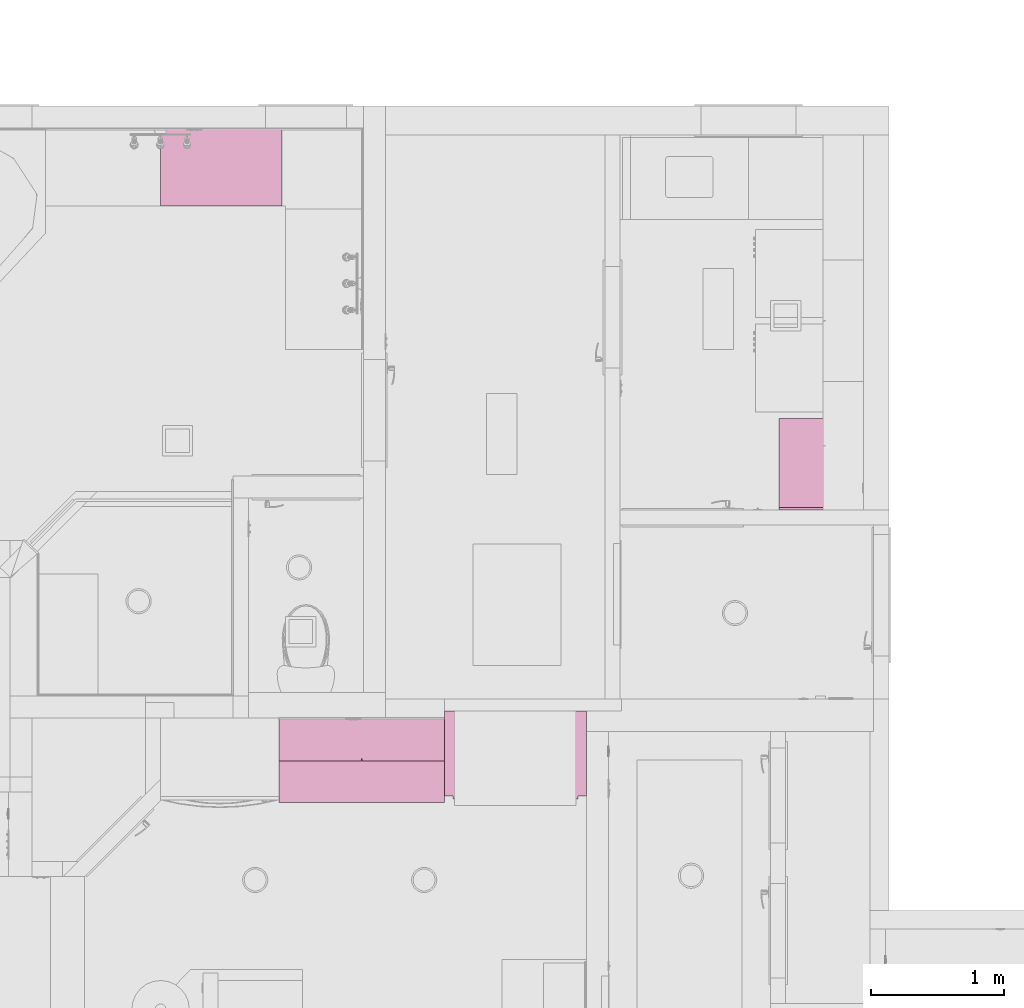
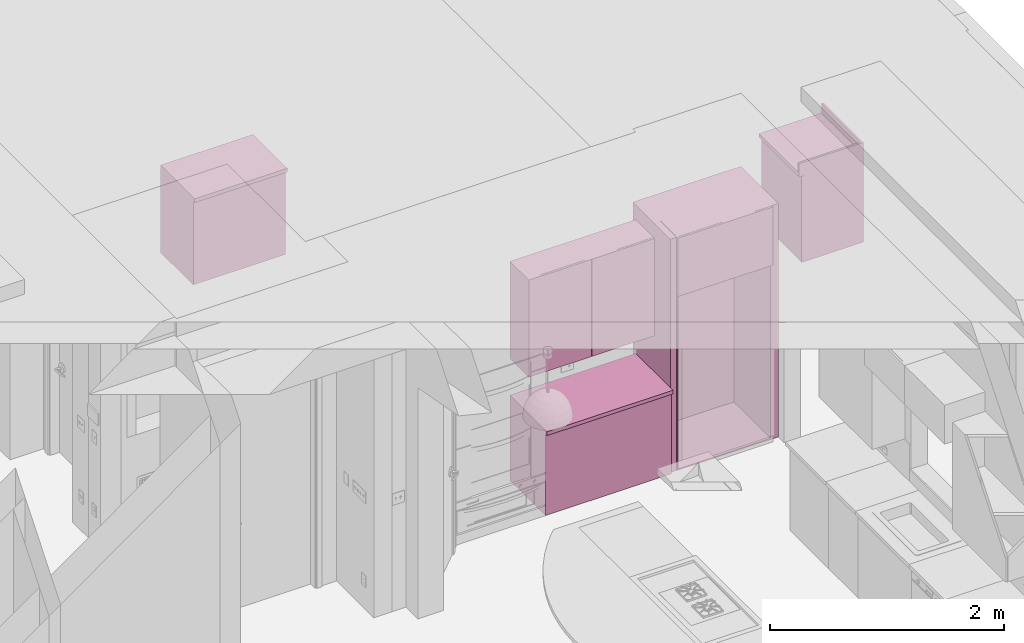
# One storey, part 51 of 103: 5 furnishings.
"""IFC2X3 building model written with IfcOpenShell, lengths in inches."""

import ifcopenshell
import ifcopenshell.guid

model = None  # the IFC model being written
_history = None  # IfcOwnerHistory: only IFC2X3 demands one
_inside = {}  # id of a spatial element -> (the spatial element, [elements in it])
_under = {}  # id of a project, library or spatial element -> (it, [spatial elements below it])
_declared = {}  # id of a project -> (the project, [libraries it declares])
_typed = {}  # id of a type object -> (the type object, [elements of that type])
_made_of = {}  # id of a material, layer set ... -> (it, [elements and type objects made of it])


def new_model(schema):
    """Start an empty IFC model of exactly this schema.

    Asked for "IFC4X3", IfcOpenShell would pick the latest addendum, in which some entities
    have other attributes; the version numbers below select the first issue.
    IFC2X3 requires an IfcOwnerHistory on every rooted entity: one is made here for all.
    """
    global model, _history
    if schema == "IFC4X3":
        model = ifcopenshell.file(schema_version=(4, 3, 0, 0))
    else:
        model = ifcopenshell.file(schema=schema)
    _inside.clear()
    _under.clear()
    _declared.clear()
    _typed.clear()
    _made_of.clear()
    _history = None
    if model.schema == "IFC2X3":
        org = make("IfcOrganization", Name="unknown")
        user = make(
            "IfcPersonAndOrganization",
            ThePerson=make("IfcPerson", FamilyName="unknown"),
            TheOrganization=org,
        )
        app = make(
            "IfcApplication",
            ApplicationDeveloper=org,
            Version="unknown",
            ApplicationFullName="unknown",
            ApplicationIdentifier="unknown",
        )
        _history = make(
            "IfcOwnerHistory",
            OwningUser=user,
            OwningApplication=app,
            ChangeAction="ADDED",
            CreationDate=0,
        )
    return model


def make(cls, **values):
    """One entity of the class cls with the attributes given. An attribute that is None is left unset."""
    return model.create_entity(
        cls, **{name: value for name, value in values.items() if value is not None}
    )


def entity(cls, *values):
    """Any entity or typed value of the class cls, its attributes in the order of the schema. None: left unset."""
    e = model.create_entity(cls)
    for i, value in enumerate(values):
        if value is not None:
            e[i] = value
    return e


def rooted(cls, **values):
    """An entity with a GlobalId (a new one), such as an element, a storey or a relation."""
    return make(cls, GlobalId=ifcopenshell.guid.new(), OwnerHistory=_history, **values)


def si_unit(unit_type, name, prefix=None):
    """IfcSIUnit, for example si_unit("LENGTHUNIT", "METRE", prefix="MILLI")."""
    return make("IfcSIUnit", UnitType=unit_type, Prefix=prefix, Name=name)


def converted_unit(unit_type, name, factor, base, dimensions=None, offset=None):
    """IfcConversionBasedUnit, such as the inch: factor (a typed value) times the base unit."""
    return make(
        "IfcConversionBasedUnit"
        if offset is None
        else "IfcConversionBasedUnitWithOffset",
        ConversionOffset=offset,
        Dimensions=None
        if dimensions is None
        else entity("IfcDimensionalExponents", *dimensions),
        UnitType=unit_type,
        Name=name,
        ConversionFactor=make(
            "IfcMeasureWithUnit", ValueComponent=factor, UnitComponent=base
        ),
    )


def derived_unit(unit_type, elements):
    """IfcDerivedUnit: a product of units, each with its exponent."""
    return make(
        "IfcDerivedUnit",
        Elements=[
            make("IfcDerivedUnitElement", Unit=unit, Exponent=power)
            for unit, power in elements
        ],
        UnitType=unit_type,
    )


def money_unit(currency):
    """IfcMonetaryUnit."""
    return make("IfcMonetaryUnit", Currency=currency)


def assignment(units):
    """IfcUnitAssignment: the units of a project."""
    return None if units is None else make("IfcUnitAssignment", Units=units)


def point(xyz):
    """IfcCartesianPoint."""
    return None if xyz is None else make("IfcCartesianPoint", Coordinates=xyz)


def direction(xyz):
    """IfcDirection."""
    return None if xyz is None else make("IfcDirection", DirectionRatios=xyz)


def frame(location, z_axis=None, x_axis=None):
    """IfcAxis2Placement3D, a coordinate frame: its origin and axes. An axis left out is left unset."""
    return make(
        "IfcAxis2Placement3D",
        Location=point(location),
        Axis=direction(z_axis),
        RefDirection=direction(x_axis),
    )


def origin_with_axes():
    """The frame at (0, 0, 0) with the z axis (0, 0, 1) and the x axis (1, 0, 0) written out."""
    return frame((0.0, 0.0, 0.0), z_axis=(0.0, 0.0, 1.0), x_axis=(1.0, 0.0, 0.0))


def place(relative_to, where):
    """IfcLocalPlacement: puts the frame where relative to a parent placement (None: the world)."""
    return make(
        "IfcLocalPlacement", PlacementRelTo=relative_to, RelativePlacement=where
    )


def context(
    kind, dimensions, precision=None, world=None, true_north=None, identifier=None
):
    """IfcGeometricRepresentationContext, for example the 3D "Model" context."""
    return make(
        "IfcGeometricRepresentationContext",
        ContextIdentifier=identifier,
        ContextType=kind,
        CoordinateSpaceDimension=dimensions,
        Precision=precision,
        WorldCoordinateSystem=world,
        TrueNorth=true_north,
    )


def subcontext(parent, identifier, kind, view, scale=None):
    """IfcGeometricRepresentationSubContext, for example "Body" below "Model"."""
    return make(
        "IfcGeometricRepresentationSubContext",
        ContextIdentifier=identifier,
        ContextType=kind,
        ParentContext=parent,
        TargetScale=scale,
        TargetView=view,
    )


def project(units=None, contexts=None):
    """IfcProject with its units and contexts."""
    return rooted(
        "IfcProject",
        Name="project",
        RepresentationContexts=contexts,
        UnitsInContext=assignment(units),
    )


def spatial(cls, under=None, at=None, **own):
    """A site, building, storey or space (cls), placed at a placement, below another one or the project."""
    s = rooted(cls, ObjectPlacement=at, **own)
    if under is not None:
        _under.setdefault(under.id(), (under, []))[1].append(s)
    return s


def faces_of(points, faces, orient=None, outer=None):
    """IfcFace entities. A face is a list of loops; a loop is a list of indices into points, from 0.

    orient and outer hold one flag for each loop. By default every Orientation is true, the
    first loop of a face is its IfcFaceOuterBound and the others are IfcFaceBound.
    """
    made = []
    for i, loops in enumerate(faces):
        bounds = []
        for j, loop in enumerate(loops):
            is_outer = j == 0 if outer is None else outer[i][j]
            bounds.append(
                make(
                    "IfcFaceOuterBound" if is_outer else "IfcFaceBound",
                    Bound=make("IfcPolyLoop", Polygon=[points[k] for k in loop]),
                    Orientation=True if orient is None else orient[i][j],
                )
            )
        made.append(make("IfcFace", Bounds=bounds))
    return made


def faceted_brep(points, faces, orient=None, outer=None, voids=None):
    """IfcFacetedBrep: a solid bounded by flat faces; with voids (closed shells), ...WithVoids."""
    shared = [point(p) for p in points]
    hull = make("IfcClosedShell", CfsFaces=faces_of(shared, faces, orient, outer))
    if voids is None:
        return make("IfcFacetedBrep", Outer=hull)
    return make(
        "IfcFacetedBrepWithVoids",
        Outer=hull,
        Voids=[
            make(cls, CfsFaces=faces_of(shared, fs, o, b)) for cls, fs, o, b in voids
        ],
    )


def shape(context_of_items, identifier, shape_type, items):
    """IfcShapeRepresentation: the items that make up one representation, for example the "Body"."""
    return make(
        "IfcShapeRepresentation",
        ContextOfItems=context_of_items,
        RepresentationIdentifier=identifier,
        RepresentationType=shape_type,
        Items=items,
    )


def made_of(thing, what):
    """Note that an element or type object is made of a material, layer set ...; save() writes the relation."""
    if what is not None:
        _made_of.setdefault(what.id(), (what, []))[1].append(thing)
    return thing


def type_object(cls, material=None, **own):
    """A type object (cls), such as IfcWallType, which elements share."""
    return made_of(rooted(cls, **own), material)


def element(
    cls,
    number,
    at=None,
    inside=None,
    cuts=None,
    type_object=None,
    material=None,
    context=None,
    identifier="Body",
    shape_type=None,
    held_by="IfcProductDefinitionShape",
    body=None,
    shapes=None,
    **own,
):
    """One element of the class cls, such as IfcWall. Its Tag is "e" and its number.

    at: its placement. inside: the storey or other place that contains it. cuts: it is an
    opening in that element (IfcRelVoidsElement). A single representation is given by context,
    identifier, shape_type and body (its items); several are given by shapes. held_by: the class
    of the entity that holds the representations. save() writes the other relations.
    """
    e = rooted(cls, Tag="e%d" % number, ObjectPlacement=at, **own)
    if body is not None:
        shapes = [shape(context, identifier, shape_type, body)]
    if shapes is not None:
        e.Representation = make(held_by, Representations=shapes)
    if inside is not None:
        _inside.setdefault(inside.id(), (inside, []))[1].append(e)
    if cuts is not None:
        rooted(
            "IfcRelVoidsElement", RelatingBuildingElement=cuts, RelatedOpeningElement=e
        )
    if type_object is not None:
        _typed.setdefault(type_object.id(), (type_object, []))[1].append(e)
    return made_of(e, material)


def aggregate(whole, parts):
    """IfcRelAggregates: a whole, such as a stair, and the parts it consists of."""
    return rooted("IfcRelAggregates", RelatingObject=whole, RelatedObjects=parts)


def save(model, path):
    """Write the relations noted so far, then the file.

    IfcRelAggregates (storeys below a building ...), IfcRelContainedInSpatialStructure (elements
    in a storey), IfcRelDefinesByType, IfcRelAssociatesMaterial and IfcRelDeclares: one each for
    every whole, place, type object, material and project.
    """
    for whole, parts in _under.values():
        aggregate(whole, parts)
    for where, things in _inside.values():
        rooted(
            "IfcRelContainedInSpatialStructure",
            RelatedElements=things,
            RelatingStructure=where,
        )
    for kind, things in _typed.values():
        rooted("IfcRelDefinesByType", RelatedObjects=things, RelatingType=kind)
    for what, things in _made_of.values():
        rooted("IfcRelAssociatesMaterial", RelatedObjects=things, RelatingMaterial=what)
    for by, libraries in _declared.values():
        rooted("IfcRelDeclares", RelatingContext=by, RelatedDefinitions=libraries)
    model.write(path)


model = new_model("IFC2X3")

# Units and contexts
model_context = context("Model", 3, precision=0.00039370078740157, world=origin_with_axes(), true_north=direction((0.0, 1.0)))
plan_context = context("Plan", 3, precision=0.00039370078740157, world=origin_with_axes(), true_north=direction((0.0, 1.0)))
body_context = subcontext(model_context, "Body", "Model", "MODEL_VIEW")
ifc_project = project(units=[converted_unit("LENGTHUNIT", "INCH", entity("IfcPositiveLengthMeasure", 0.0254), si_unit("LENGTHUNIT", "METRE"), dimensions=[1, 0, 0, 0, 0, 0, 0]), converted_unit("AREAUNIT", "SQUARE_FOOT", entity("IfcPositiveLengthMeasure", 0.09290304), si_unit("AREAUNIT", "SQUARE_METRE"), dimensions=[2, 0, 0, 0, 0, 0, 0]), si_unit("PLANEANGLEUNIT", "RADIAN"), si_unit("SOLIDANGLEUNIT", "STERADIAN"), money_unit("USD"), converted_unit("TIMEUNIT", "Year", entity("IfcTimeMeasure", 31557600.0), si_unit("TIMEUNIT", "SECOND"), dimensions=[0, 0, 1, 0, 0, 0, 0]), si_unit("MASSUNIT", "GRAM", prefix="KILO"), si_unit("THERMODYNAMICTEMPERATUREUNIT", "DEGREE_CELSIUS"), si_unit("LUMINOUSINTENSITYUNIT", "LUMEN"), si_unit("ENERGYUNIT", "JOULE", prefix="MEGA"), derived_unit("SPECIFICHEATCAPACITYUNIT", [(si_unit("ENERGYUNIT", "JOULE"), 1), (si_unit("MASSUNIT", "GRAM", prefix="KILO"), -1), (si_unit("THERMODYNAMICTEMPERATUREUNIT", "KELVIN"), -1)])], contexts=[model_context, plan_context])

# Site, building, storey
site_placement = place(None, origin_with_axes())
site = spatial("IfcSite", under=ifc_project, at=site_placement, Name="Site", CompositionType="ELEMENT")
building_placement = place(site_placement, origin_with_axes())
building = spatial("IfcBuilding", under=site, at=building_placement, Name="Building", CompositionType="ELEMENT")
storey_placement = place(building_placement, frame((0.0, 0.0, 127.9999999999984), z_axis=(0.0, 0.0, 1.0), x_axis=(1.0, 0.0, 0.0)))
storey = spatial("IfcBuildingStorey", under=building, at=storey_placement, Name="Second Floor", CompositionType="ELEMENT", Elevation=128.0)

# Furnishings
furniture_type_1 = type_object("IfcFurnitureType", Name="Base Cabinet Block", AssemblyPlace="NOTDEFINED")
furnishing_1_placement = place(storey_placement, frame((63.99944462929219, 395.5014383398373, 0.0), z_axis=(0.0, 0.0, 1.0), x_axis=(0.9999999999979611, 2.01938114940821e-06, 0.0)))
element("IfcFurnishingElement", 1, at=furnishing_1_placement, inside=storey, type_object=furniture_type_1, Name="OBJ-16", context=body_context, shape_type="Brep", body=[
    faceted_brep([(0.0, -24.99999999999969, 33.49999999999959), (48.9999999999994, -24.99999999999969, 33.49999999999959), (48.9999999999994, -24.99999999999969, 34.99999999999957), (0.0, -24.99999999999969, 34.99999999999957), (0.0, 0.0, 33.49999999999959), (48.9999999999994, 0.0, 33.49999999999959), (48.9999999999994, 0.0, 34.99999999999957), (0.0, 0.0, 34.99999999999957)], [[[0, 1, 2, 3]], [[0, 4, 5, 1]], [[1, 5, 6, 2]], [[3, 2, 6, 7]], [[4, 0, 3, 7]], [[5, 4, 7, 6]]]),
    faceted_brep([(0.039370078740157, -23.24999999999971, 0.039370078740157), (24.46062992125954, -23.24999999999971, 0.039370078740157), (24.46062992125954, -23.9999999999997, 0.03937007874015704), (0.039370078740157, -23.9999999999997, 0.03937007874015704), (0.039370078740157, -23.24999999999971, 33.46062992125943), (24.46062992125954, -23.24999999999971, 33.46062992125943), (24.46062992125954, -23.9999999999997, 33.46062992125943), (0.039370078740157, -23.9999999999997, 33.46062992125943)], [[[0, 1, 2, 3]], [[0, 4, 5, 1]], [[1, 5, 6, 2]], [[3, 2, 6, 7]], [[4, 0, 3, 7]], [[5, 4, 7, 6]]]),
    faceted_brep([(48.96062992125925, -23.24999999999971, 0.03937007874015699), (48.96062992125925, -23.9999999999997, 0.03937007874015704), (24.53937007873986, -23.9999999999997, 0.03937007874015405), (24.53937007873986, -23.24999999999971, 0.039370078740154), (48.96062992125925, -23.24999999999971, 33.46062992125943), (48.96062992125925, -23.9999999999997, 33.46062992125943), (24.53937007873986, -23.9999999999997, 33.46062992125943), (24.53937007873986, -23.24999999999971, 33.46062992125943)], [[[0, 1, 2, 3]], [[4, 5, 1, 0]], [[1, 5, 6, 2]], [[3, 2, 6, 7]], [[0, 3, 7, 4]], [[7, 6, 5, 4]]]),
    faceted_brep([(0.7499999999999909, -23.24999999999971, 0.0), (48.2499999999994, -23.24999999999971, 0.0), (48.2499999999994, -23.24999999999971, 0.7499999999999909), (0.7499999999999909, -23.24999999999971, 0.7499999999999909), (0.7499999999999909, 0.0, 0.0), (48.2499999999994, 0.0, 0.0), (48.2499999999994, 0.0, 0.7499999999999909), (0.7499999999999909, 0.0, 0.7499999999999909)], [[[0, 1, 2, 3]], [[0, 4, 5, 1]], [[1, 5, 6, 2]], [[3, 2, 6, 7]], [[4, 0, 3, 7]], [[5, 4, 7, 6]]]),
    faceted_brep([(0.7499999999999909, -23.24999999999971, 32.74999999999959), (0.7499999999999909, -20.88779527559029, 32.74999999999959), (48.2499999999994, -20.88779527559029, 32.74999999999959), (48.2499999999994, -23.24999999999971, 32.74999999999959), (0.7499999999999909, -23.24999999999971, 33.49999999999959), (0.7499999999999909, -20.88779527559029, 33.49999999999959), (48.2499999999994, -20.88779527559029, 33.49999999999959), (48.2499999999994, -23.24999999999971, 33.49999999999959)], [[[0, 1, 2, 3]], [[0, 4, 5, 1]], [[1, 5, 6, 2]], [[3, 2, 6, 7]], [[4, 0, 3, 7]], [[5, 4, 7, 6]]]),
    faceted_brep([(48.2499999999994, 0.0, 32.74999999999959), (48.2499999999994, -2.36220472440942, 32.74999999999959), (0.7499999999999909, -2.36220472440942, 32.74999999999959), (0.7499999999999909, 0.0, 32.74999999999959), (48.2499999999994, 0.0, 33.49999999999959), (48.2499999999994, -2.36220472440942, 33.49999999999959), (0.7499999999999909, -2.36220472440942, 33.49999999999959), (0.7499999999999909, 0.0, 33.49999999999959)], [[[0, 1, 2, 3]], [[0, 4, 5, 1]], [[1, 5, 6, 2]], [[3, 2, 6, 7]], [[4, 0, 3, 7]], [[5, 4, 7, 6]]]),
    faceted_brep([(0.0, 0.0, 0.0), (0.0, -23.24999999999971, 0.0), (0.0, -23.24999999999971, 33.49999999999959), (0.0, 0.0, 33.49999999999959), (0.7499999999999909, 0.0, 0.0), (0.7499999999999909, -23.24999999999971, 0.0), (0.7499999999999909, -23.24999999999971, 33.49999999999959), (0.7499999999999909, 0.0, 33.49999999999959)], [[[0, 1, 2, 3]], [[0, 4, 5, 1]], [[1, 5, 6, 2]], [[3, 2, 6, 7]], [[4, 0, 3, 7]], [[5, 4, 7, 6]]]),
    faceted_brep([(48.9999999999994, -23.24999999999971, 0.0), (48.9999999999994, 0.0, 0.0), (48.9999999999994, 0.0, 33.49999999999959), (48.9999999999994, -23.24999999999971, 33.49999999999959), (48.2499999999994, -23.24999999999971, 0.0), (48.2499999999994, 0.0, 0.0), (48.2499999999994, 0.0, 33.49999999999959), (48.2499999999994, -23.24999999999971, 33.49999999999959)], [[[0, 1, 2, 3]], [[0, 4, 5, 1]], [[1, 5, 6, 2]], [[3, 2, 6, 7]], [[4, 0, 3, 7]], [[5, 4, 7, 6]]]),
    faceted_brep([(48.2499999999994, -0.3749999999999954, 0.7499999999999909), (0.7499999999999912, -0.3749999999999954, 0.7499999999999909), (0.7499999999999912, -0.3749999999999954, 32.74999999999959), (48.2499999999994, -0.3749999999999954, 32.74999999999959), (48.2499999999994, -0.7499999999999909, 0.7499999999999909), (0.7499999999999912, -0.7499999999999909, 0.7499999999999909), (0.7499999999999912, -0.7499999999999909, 32.74999999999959), (48.2499999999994, -0.7499999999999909, 32.74999999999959)], [[[0, 1, 2, 3]], [[0, 4, 5, 1]], [[1, 5, 6, 2]], [[3, 2, 6, 7]], [[4, 0, 3, 7]], [[5, 4, 7, 6]]]),
])
furnishing_2_placement = place(storey_placement, frame((29.00049595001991, 569.9997645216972, 0.0), z_axis=(0.0, 0.0, 1.0), x_axis=(0.9999999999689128, 7.885082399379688e-06, 0.0)))
element("IfcFurnishingElement", 2, at=furnishing_2_placement, inside=storey, type_object=furniture_type_1, Name="FU - 026", context=body_context, shape_type="Brep", body=[
    faceted_brep([(0.0, -22.99272103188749, 34.49999999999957), (35.99999999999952, -22.99272103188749, 34.49999999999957), (35.99999999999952, -22.99272103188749, 35.99999999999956), (0.0, -22.99272103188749, 35.99999999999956), (0.0, 0.0, 34.49999999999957), (35.99999999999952, 0.0, 34.49999999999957), (35.99999999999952, 0.0, 35.99999999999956), (0.0, 0.0, 35.99999999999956)], [[[0, 1, 2, 3]], [[0, 4, 5, 1]], [[1, 5, 6, 2]], [[3, 2, 6, 7]], [[4, 0, 3, 7]], [[5, 4, 7, 6]]]),
    faceted_brep([(0.039370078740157, -21.24272103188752, 0.039370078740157), (17.9606299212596, -21.24272103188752, 0.039370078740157), (17.9606299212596, -21.99272103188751, 0.03937007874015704), (0.039370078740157, -21.99272103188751, 0.03937007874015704), (0.039370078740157, -21.24272103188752, 34.46062992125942), (17.9606299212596, -21.24272103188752, 34.46062992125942), (17.9606299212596, -21.99272103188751, 34.46062992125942), (0.039370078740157, -21.99272103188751, 34.46062992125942)], [[[0, 1, 2, 3]], [[0, 4, 5, 1]], [[1, 5, 6, 2]], [[3, 2, 6, 7]], [[4, 0, 3, 7]], [[5, 4, 7, 6]]]),
    faceted_brep([(35.96062992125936, -21.24272103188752, 0.03937007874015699), (35.96062992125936, -21.99272103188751, 0.03937007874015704), (18.03937007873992, -21.99272103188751, 0.03937007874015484), (18.03937007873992, -21.24272103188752, 0.03937007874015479), (35.96062992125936, -21.24272103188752, 34.46062992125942), (35.96062992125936, -21.99272103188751, 34.46062992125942), (18.03937007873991, -21.99272103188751, 34.46062992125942), (18.03937007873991, -21.24272103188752, 34.46062992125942)], [[[0, 1, 2, 3]], [[4, 5, 1, 0]], [[1, 5, 6, 2]], [[3, 2, 6, 7]], [[0, 3, 7, 4]], [[7, 6, 5, 4]]]),
    faceted_brep([(0.7499999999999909, -21.24272103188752, 0.0), (35.24999999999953, -21.24272103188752, 0.0), (35.24999999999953, -21.24272103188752, 0.7499999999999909), (0.7499999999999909, -21.24272103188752, 0.7499999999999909), (0.7499999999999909, 0.0, 0.0), (35.24999999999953, 0.0, 0.0), (35.24999999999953, 0.0, 0.7499999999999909), (0.7499999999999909, 0.0, 0.7499999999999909)], [[[0, 1, 2, 3]], [[0, 4, 5, 1]], [[1, 5, 6, 2]], [[3, 2, 6, 7]], [[4, 0, 3, 7]], [[5, 4, 7, 6]]]),
    faceted_brep([(0.7499999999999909, -21.24272103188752, 33.74999999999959), (0.7499999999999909, -18.8805163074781, 33.74999999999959), (35.24999999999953, -18.8805163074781, 33.74999999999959), (35.24999999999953, -21.24272103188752, 33.74999999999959), (0.7499999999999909, -21.24272103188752, 34.49999999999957), (0.7499999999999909, -18.8805163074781, 34.49999999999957), (35.24999999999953, -18.8805163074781, 34.49999999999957), (35.24999999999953, -21.24272103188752, 34.49999999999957)], [[[0, 1, 2, 3]], [[0, 4, 5, 1]], [[1, 5, 6, 2]], [[3, 2, 6, 7]], [[4, 0, 3, 7]], [[5, 4, 7, 6]]]),
    faceted_brep([(35.24999999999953, 0.0, 33.74999999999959), (35.24999999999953, -2.36220472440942, 33.74999999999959), (0.7499999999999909, -2.36220472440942, 33.74999999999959), (0.7499999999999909, 0.0, 33.74999999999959), (35.24999999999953, 0.0, 34.49999999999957), (35.24999999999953, -2.36220472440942, 34.49999999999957), (0.7499999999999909, -2.36220472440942, 34.49999999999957), (0.7499999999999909, 0.0, 34.49999999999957)], [[[0, 1, 2, 3]], [[0, 4, 5, 1]], [[1, 5, 6, 2]], [[3, 2, 6, 7]], [[4, 0, 3, 7]], [[5, 4, 7, 6]]]),
    faceted_brep([(0.0, 0.0, 0.0), (0.0, -21.24272103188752, 0.0), (0.0, -21.24272103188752, 34.49999999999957), (0.0, 0.0, 34.49999999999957), (0.7499999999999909, 0.0, 0.0), (0.7499999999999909, -21.24272103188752, 0.0), (0.7499999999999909, -21.24272103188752, 34.49999999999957), (0.7499999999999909, 0.0, 34.49999999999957)], [[[0, 1, 2, 3]], [[0, 4, 5, 1]], [[1, 5, 6, 2]], [[3, 2, 6, 7]], [[4, 0, 3, 7]], [[5, 4, 7, 6]]]),
    faceted_brep([(35.99999999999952, -21.24272103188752, 0.0), (35.99999999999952, 0.0, 0.0), (35.99999999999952, 0.0, 34.49999999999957), (35.99999999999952, -21.24272103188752, 34.49999999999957), (35.24999999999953, -21.24272103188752, 0.0), (35.24999999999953, 0.0, 0.0), (35.24999999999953, 0.0, 34.49999999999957), (35.24999999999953, -21.24272103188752, 34.49999999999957)], [[[0, 1, 2, 3]], [[0, 4, 5, 1]], [[1, 5, 6, 2]], [[3, 2, 6, 7]], [[4, 0, 3, 7]], [[5, 4, 7, 6]]]),
    faceted_brep([(35.24999999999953, -0.3749999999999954, 0.7499999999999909), (0.7499999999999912, -0.3749999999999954, 0.7499999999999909), (0.7499999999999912, -0.3749999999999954, 33.74999999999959), (35.24999999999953, -0.3749999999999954, 33.74999999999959), (35.24999999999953, -0.7499999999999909, 0.7499999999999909), (0.7499999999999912, -0.7499999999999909, 0.7499999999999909), (0.7499999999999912, -0.7499999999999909, 33.74999999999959), (35.24999999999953, -0.7499999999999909, 33.74999999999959)], [[[0, 1, 2, 3]], [[0, 4, 5, 1]], [[1, 5, 6, 2]], [[3, 2, 6, 7]], [[4, 0, 3, 7]], [[5, 4, 7, 6]]]),
])
furnishing_3_placement = place(storey_placement, frame((236.9999999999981, 483.9999999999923, 0.0), z_axis=(0.0, 0.0, 1.0), x_axis=(0.0, -1.0, 0.0)))
element("IfcFurnishingElement", 3, at=furnishing_3_placement, inside=storey, type_object=furniture_type_1, Name="FU - 007", context=body_context, shape_type="Brep", body=[
    faceted_brep([(0.0, -24.99999999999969, 35.49999999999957), (26.99999999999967, -24.99999999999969, 35.49999999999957), (26.99999999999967, -24.99999999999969, 36.99999999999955), (0.0, -24.99999999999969, 36.99999999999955), (0.0, 0.0, 35.49999999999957), (26.99999999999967, 0.0, 35.49999999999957), (26.99999999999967, 0.0, 36.99999999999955), (0.0, 0.0, 36.99999999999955)], [[[0, 1, 2, 3]], [[0, 4, 5, 1]], [[1, 5, 6, 2]], [[3, 2, 6, 7]], [[4, 0, 3, 7]], [[5, 4, 7, 6]]]),
    faceted_brep([(26.99999999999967, -24.99999999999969, 36.99999999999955), (26.24999999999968, -24.99999999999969, 36.99999999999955), (26.24999999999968, -0.7499999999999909, 36.99999999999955), (26.99999999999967, 0.0, 36.99999999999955), (26.99999999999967, -24.99999999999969, 40.9999999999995), (26.24999999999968, -24.99999999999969, 40.9999999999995), (26.24999999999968, -0.7499999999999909, 40.9999999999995), (26.99999999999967, 0.0, 40.9999999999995)], [[[0, 1, 2, 3]], [[0, 4, 5, 1]], [[1, 5, 6, 2]], [[3, 2, 6, 7]], [[4, 0, 3, 7]], [[5, 4, 7, 6]]]),
    faceted_brep([(26.99999999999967, 0.0, 36.99999999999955), (26.24999999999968, -0.7499999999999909, 36.99999999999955), (0.0, -0.7499999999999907, 36.99999999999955), (0.0, 0.0, 36.99999999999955), (26.99999999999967, 0.0, 40.9999999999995), (26.24999999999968, -0.7499999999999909, 40.9999999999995), (0.0, -0.7499999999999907, 40.9999999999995), (0.0, 0.0, 40.9999999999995)], [[[0, 1, 2, 3]], [[0, 4, 5, 1]], [[1, 5, 6, 2]], [[3, 2, 6, 7]], [[4, 0, 3, 7]], [[5, 4, 7, 6]]]),
    faceted_brep([(0.039370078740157, -23.24999999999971, 0.039370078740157), (13.46062992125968, -23.24999999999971, 0.039370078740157), (13.46062992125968, -23.9999999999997, 0.03937007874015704), (0.039370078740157, -23.9999999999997, 0.03937007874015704), (0.039370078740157, -23.24999999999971, 35.4606299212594), (13.46062992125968, -23.24999999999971, 35.4606299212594), (13.46062992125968, -23.9999999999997, 35.4606299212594), (0.039370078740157, -23.9999999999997, 35.4606299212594)], [[[0, 1, 2, 3]], [[0, 4, 5, 1]], [[1, 5, 6, 2]], [[3, 2, 6, 7]], [[4, 0, 3, 7]], [[5, 4, 7, 6]]]),
    faceted_brep([(26.96062992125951, -23.24999999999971, 0.03937007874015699), (26.96062992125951, -23.9999999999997, 0.03937007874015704), (13.53937007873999, -23.9999999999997, 0.03937007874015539), (13.53937007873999, -23.24999999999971, 0.03937007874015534), (26.96062992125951, -23.24999999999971, 35.4606299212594), (26.96062992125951, -23.9999999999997, 35.4606299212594), (13.53937007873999, -23.9999999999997, 35.4606299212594), (13.53937007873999, -23.24999999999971, 35.4606299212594)], [[[0, 1, 2, 3]], [[4, 5, 1, 0]], [[1, 5, 6, 2]], [[3, 2, 6, 7]], [[0, 3, 7, 4]], [[7, 6, 5, 4]]]),
    faceted_brep([(0.7499999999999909, -23.24999999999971, 0.0), (26.24999999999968, -23.24999999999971, 0.0), (26.24999999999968, -23.24999999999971, 0.7499999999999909), (0.7499999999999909, -23.24999999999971, 0.7499999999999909), (0.7499999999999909, 0.0, 0.0), (26.24999999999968, 0.0, 0.0), (26.24999999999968, 0.0, 0.7499999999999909), (0.7499999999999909, 0.0, 0.7499999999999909)], [[[0, 1, 2, 3]], [[0, 4, 5, 1]], [[1, 5, 6, 2]], [[3, 2, 6, 7]], [[4, 0, 3, 7]], [[5, 4, 7, 6]]]),
    faceted_brep([(0.7499999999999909, -23.24999999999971, 34.74999999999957), (0.7499999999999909, -20.88779527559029, 34.74999999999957), (26.24999999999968, -20.88779527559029, 34.74999999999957), (26.24999999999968, -23.24999999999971, 34.74999999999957), (0.7499999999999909, -23.24999999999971, 35.49999999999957), (0.7499999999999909, -20.88779527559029, 35.49999999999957), (26.24999999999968, -20.88779527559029, 35.49999999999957), (26.24999999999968, -23.24999999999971, 35.49999999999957)], [[[0, 1, 2, 3]], [[0, 4, 5, 1]], [[1, 5, 6, 2]], [[3, 2, 6, 7]], [[4, 0, 3, 7]], [[5, 4, 7, 6]]]),
    faceted_brep([(26.24999999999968, 0.0, 34.74999999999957), (26.24999999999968, -2.36220472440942, 34.74999999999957), (0.7499999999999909, -2.36220472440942, 34.74999999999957), (0.7499999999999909, 0.0, 34.74999999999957), (26.24999999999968, 0.0, 35.49999999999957), (26.24999999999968, -2.36220472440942, 35.49999999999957), (0.7499999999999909, -2.36220472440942, 35.49999999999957), (0.7499999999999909, 0.0, 35.49999999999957)], [[[0, 1, 2, 3]], [[0, 4, 5, 1]], [[1, 5, 6, 2]], [[3, 2, 6, 7]], [[4, 0, 3, 7]], [[5, 4, 7, 6]]]),
    faceted_brep([(0.0, 0.0, 0.0), (0.0, -23.24999999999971, 0.0), (0.0, -23.24999999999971, 35.49999999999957), (0.0, 0.0, 35.49999999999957), (0.7499999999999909, 0.0, 0.0), (0.7499999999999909, -23.24999999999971, 0.0), (0.7499999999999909, -23.24999999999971, 35.49999999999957), (0.7499999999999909, 0.0, 35.49999999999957)], [[[0, 1, 2, 3]], [[0, 4, 5, 1]], [[1, 5, 6, 2]], [[3, 2, 6, 7]], [[4, 0, 3, 7]], [[5, 4, 7, 6]]]),
    faceted_brep([(26.99999999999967, -23.24999999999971, 0.0), (26.99999999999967, 0.0, 0.0), (26.99999999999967, 0.0, 35.49999999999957), (26.99999999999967, -23.24999999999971, 35.49999999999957), (26.24999999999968, -23.24999999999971, 0.0), (26.24999999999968, 0.0, 0.0), (26.24999999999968, 0.0, 35.49999999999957), (26.24999999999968, -23.24999999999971, 35.49999999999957)], [[[0, 1, 2, 3]], [[0, 4, 5, 1]], [[1, 5, 6, 2]], [[3, 2, 6, 7]], [[4, 0, 3, 7]], [[5, 4, 7, 6]]]),
    faceted_brep([(26.24999999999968, -0.3749999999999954, 0.7499999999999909), (0.7499999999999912, -0.3749999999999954, 0.7499999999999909), (0.7499999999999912, -0.3749999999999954, 34.74999999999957), (26.24999999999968, -0.3749999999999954, 34.74999999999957), (26.24999999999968, -0.7499999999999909, 0.7499999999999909), (0.7499999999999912, -0.7499999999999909, 0.7499999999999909), (0.7499999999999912, -0.7499999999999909, 34.74999999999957), (26.24999999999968, -0.7499999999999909, 34.74999999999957)], [[[0, 1, 2, 3]], [[0, 4, 5, 1]], [[1, 5, 6, 2]], [[3, 2, 6, 7]], [[4, 0, 3, 7]], [[5, 4, 7, 6]]]),
])
furniture_type_2 = type_object("IfcFurnitureType", Name="Standing Cabinet Block", AssemblyPlace="NOTDEFINED")
furnishing_4_placement = place(storey_placement, frame((112.9994689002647, 397.5015372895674, 0.0), z_axis=(0.0, 0.0, 1.0), x_axis=(0.9999999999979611, 2.01938114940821e-06, 0.0)))
element("IfcFurnishingElement", 4, at=furnishing_4_placement, inside=storey, type_object=furniture_type_2, Name="OBJ-17", context=body_context, shape_type="Brep", body=[
    faceted_brep([(2.999999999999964, -25.24999999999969, 71.74999999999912), (38.99999999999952, -25.24999999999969, 71.74999999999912), (38.99999999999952, -25.24999999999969, 72.2499999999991), (2.999999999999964, -25.24999999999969, 72.2499999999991), (2.999999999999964, -0.4999999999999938, 71.74999999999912), (38.99999999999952, -0.4999999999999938, 71.74999999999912), (38.99999999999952, -0.4999999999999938, 72.2499999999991), (2.999999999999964, -0.4999999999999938, 72.2499999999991)], [[[0, 1, 2, 3]], [[0, 4, 5, 1]], [[1, 5, 6, 2]], [[3, 2, 6, 7]], [[4, 0, 3, 7]], [[5, 4, 7, 6]]]),
    faceted_brep([(2.539370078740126, -25.24999999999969, 72.03937007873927), (20.96062992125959, -25.24999999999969, 72.03937007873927), (20.96062992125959, -25.99999999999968, 72.03937007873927), (2.539370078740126, -25.99999999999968, 72.03937007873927), (2.539370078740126, -25.24999999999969, 95.96062992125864), (20.96062992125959, -25.24999999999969, 95.96062992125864), (20.96062992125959, -25.99999999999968, 95.96062992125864), (2.539370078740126, -25.99999999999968, 95.96062992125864)], [[[0, 1, 2, 3]], [[0, 4, 5, 1]], [[1, 5, 6, 2]], [[3, 2, 6, 7]], [[4, 0, 3, 7]], [[5, 4, 7, 6]]]),
    faceted_brep([(39.46062992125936, -25.24999999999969, 72.03937007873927), (39.46062992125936, -25.99999999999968, 72.03937007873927), (21.0393700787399, -25.99999999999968, 72.03937007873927), (21.0393700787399, -25.24999999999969, 72.03937007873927), (39.46062992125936, -25.24999999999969, 95.96062992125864), (39.46062992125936, -25.99999999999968, 95.96062992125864), (21.0393700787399, -25.99999999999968, 95.96062992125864), (21.0393700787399, -25.24999999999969, 95.96062992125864)], [[[0, 1, 2, 3]], [[4, 5, 1, 0]], [[1, 5, 6, 2]], [[3, 2, 6, 7]], [[0, 3, 7, 4]], [[7, 6, 5, 4]]]),
    faceted_brep([(2.499999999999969, -0.039370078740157, 0.039370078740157), (2.499999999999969, -25.21062992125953, 0.039370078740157), (0.0, -25.21062992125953, 0.03937007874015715), (0.0, -0.039370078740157, 0.03937007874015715), (2.499999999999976, -0.039370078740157, 95.96062992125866), (2.499999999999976, -25.21062992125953, 95.96062992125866), (0.0, -25.21062992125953, 95.96062992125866), (0.0, -0.039370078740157, 95.96062992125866)], [[[0, 1, 2, 3]], [[0, 4, 5, 1]], [[1, 5, 6, 2]], [[3, 2, 6, 7]], [[4, 0, 3, 7]], [[5, 4, 7, 6]]]),
    faceted_brep([(39.49999999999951, -25.21062992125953, 0.039370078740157), (39.49999999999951, -0.03937007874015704, 0.039370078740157), (41.99999999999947, -0.03937007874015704, 0.03937007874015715), (41.99999999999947, -25.21062992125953, 0.03937007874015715), (39.4999999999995, -25.21062992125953, 95.96062992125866), (39.4999999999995, -0.03937007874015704, 95.96062992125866), (41.99999999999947, -0.03937007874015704, 95.96062992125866), (41.99999999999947, -25.21062992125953, 95.96062992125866)], [[[0, 1, 2, 3]], [[0, 4, 5, 1]], [[1, 5, 6, 2]], [[3, 2, 6, 7]], [[4, 0, 3, 7]], [[5, 4, 7, 6]]]),
    faceted_brep([(2.999999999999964, -25.24999999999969, 0.0), (38.99999999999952, -25.24999999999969, 0.0), (38.99999999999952, -25.24999999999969, 0.4999999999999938), (2.999999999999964, -25.24999999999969, 0.4999999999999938), (2.999999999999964, 0.0, 0.0), (38.99999999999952, 0.0, 0.0), (38.99999999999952, 0.0, 0.4999999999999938), (2.999999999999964, 0.0, 0.4999999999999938)], [[[0, 1, 2, 3]], [[0, 4, 5, 1]], [[1, 5, 6, 2]], [[3, 2, 6, 7]], [[4, 0, 3, 7]], [[5, 4, 7, 6]]]),
    faceted_brep([(2.999999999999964, -25.24999999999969, 95.4999999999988), (38.99999999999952, -25.24999999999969, 95.4999999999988), (38.99999999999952, -25.24999999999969, 95.9999999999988), (2.999999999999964, -25.24999999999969, 95.9999999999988), (2.999999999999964, 0.0, 95.4999999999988), (38.99999999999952, 0.0, 95.4999999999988), (38.99999999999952, 0.0, 95.9999999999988), (2.999999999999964, 0.0, 95.9999999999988)], [[[0, 1, 2, 3]], [[0, 4, 5, 1]], [[1, 5, 6, 2]], [[3, 2, 6, 7]], [[4, 0, 3, 7]], [[5, 4, 7, 6]]]),
    faceted_brep([(2.499999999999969, 0.0, 0.0), (2.499999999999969, -25.24999999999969, 0.0), (2.499999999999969, -25.24999999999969, 95.9999999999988), (2.499999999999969, 0.0, 95.9999999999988), (2.999999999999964, 0.0, 0.0), (2.999999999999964, -25.24999999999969, 0.0), (2.999999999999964, -25.24999999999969, 95.9999999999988), (2.999999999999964, 0.0, 95.9999999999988)], [[[0, 1, 2, 3]], [[0, 4, 5, 1]], [[1, 5, 6, 2]], [[3, 2, 6, 7]], [[4, 0, 3, 7]], [[5, 4, 7, 6]]]),
    faceted_brep([(39.49999999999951, -25.24999999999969, 0.0), (39.49999999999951, 0.0, 0.0), (39.49999999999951, 0.0, 95.9999999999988), (39.49999999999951, -25.24999999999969, 95.9999999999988), (38.99999999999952, -25.24999999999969, 0.0), (38.99999999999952, 0.0, 0.0), (38.99999999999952, 0.0, 95.9999999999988), (38.99999999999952, -25.24999999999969, 95.9999999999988)], [[[0, 1, 2, 3]], [[0, 4, 5, 1]], [[1, 5, 6, 2]], [[3, 2, 6, 7]], [[4, 0, 3, 7]], [[5, 4, 7, 6]]]),
    faceted_brep([(38.99999999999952, -0.2499999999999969, 0.4999999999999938), (2.999999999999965, -0.2499999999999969, 0.4999999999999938), (2.999999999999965, -0.2499999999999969, 95.49999999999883), (38.99999999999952, -0.2499999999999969, 95.49999999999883), (38.99999999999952, -0.4999999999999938, 0.4999999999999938), (2.999999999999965, -0.4999999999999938, 0.4999999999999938), (2.999999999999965, -0.4999999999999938, 95.49999999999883), (38.99999999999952, -0.4999999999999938, 95.49999999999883)], [[[0, 1, 2, 3]], [[0, 4, 5, 1]], [[1, 5, 6, 2]], [[3, 2, 6, 7]], [[4, 0, 3, 7]], [[5, 4, 7, 6]]]),
])
furniture_type_3 = type_object("IfcFurnitureType", Name="Wall Cabinet Block", AssemblyPlace="NOTDEFINED")
furnishing_5_placement = place(storey_placement, frame((63.99944462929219, 395.5014383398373, -9.999999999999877), z_axis=(0.0, 0.0, 1.0), x_axis=(0.9999999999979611, 2.01938114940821e-06, 0.0)))
element("IfcFurnishingElement", 5, at=furnishing_5_placement, inside=storey, type_object=furniture_type_3, Name="OBJ-21", context=body_context, shape_type="Brep", body=[
    faceted_brep([(0.7499999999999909, -11.99999999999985, 73.08333333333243), (48.2499999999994, -11.99999999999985, 73.08333333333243), (48.2499999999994, -11.99999999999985, 73.83333333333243), (0.7499999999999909, -11.99999999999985, 73.83333333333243), (0.7499999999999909, -0.7499999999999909, 73.08333333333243), (48.2499999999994, -0.7499999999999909, 73.08333333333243), (48.2499999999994, -0.7499999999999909, 73.83333333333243), (0.7499999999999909, -0.7499999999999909, 73.83333333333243)], [[[0, 1, 2, 3]], [[0, 4, 5, 1]], [[1, 5, 6, 2]], [[3, 2, 6, 7]], [[4, 0, 3, 7]], [[5, 4, 7, 6]]]),
    faceted_brep([(0.7499999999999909, -11.99999999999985, 86.1666666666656), (48.2499999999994, -11.99999999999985, 86.1666666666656), (48.2499999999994, -11.99999999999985, 86.91666666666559), (0.7499999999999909, -11.99999999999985, 86.91666666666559), (0.7499999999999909, -0.7499999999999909, 86.1666666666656), (48.2499999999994, -0.7499999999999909, 86.1666666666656), (48.2499999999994, -0.7499999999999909, 86.91666666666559), (0.7499999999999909, -0.7499999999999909, 86.91666666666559)], [[[0, 1, 2, 3]], [[0, 4, 5, 1]], [[1, 5, 6, 2]], [[3, 2, 6, 7]], [[4, 0, 3, 7]], [[5, 4, 7, 6]]]),
    faceted_brep([(0.039370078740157, -11.99999999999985, 60.03937007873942), (24.46062992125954, -11.99999999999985, 60.03937007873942), (24.46062992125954, -12.74999999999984, 60.03937007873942), (0.039370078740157, -12.74999999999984, 60.03937007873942), (0.039370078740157, -11.99999999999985, 99.9606299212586), (24.46062992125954, -11.99999999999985, 99.9606299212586), (24.46062992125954, -12.74999999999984, 99.9606299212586), (0.039370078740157, -12.74999999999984, 99.9606299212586)], [[[0, 1, 2, 3]], [[0, 4, 5, 1]], [[1, 5, 6, 2]], [[3, 2, 6, 7]], [[4, 0, 3, 7]], [[5, 4, 7, 6]]]),
    faceted_brep([(48.96062992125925, -11.99999999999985, 60.03937007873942), (48.96062992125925, -12.74999999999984, 60.03937007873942), (24.53937007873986, -12.74999999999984, 60.03937007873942), (24.53937007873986, -11.99999999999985, 60.03937007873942), (48.96062992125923, -11.99999999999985, 99.9606299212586), (48.96062992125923, -12.74999999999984, 99.9606299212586), (24.53937007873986, -12.74999999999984, 99.9606299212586), (24.53937007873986, -11.99999999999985, 99.9606299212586)], [[[0, 1, 2, 3]], [[4, 5, 1, 0]], [[1, 5, 6, 2]], [[3, 2, 6, 7]], [[0, 3, 7, 4]], [[7, 6, 5, 4]]]),
    faceted_brep([(0.7499999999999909, -11.99999999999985, 59.99999999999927), (48.2499999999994, -11.99999999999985, 59.99999999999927), (48.2499999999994, -11.99999999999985, 60.74999999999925), (0.7499999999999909, -11.99999999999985, 60.74999999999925), (0.7499999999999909, 0.0, 59.99999999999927), (48.2499999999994, 0.0, 59.99999999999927), (48.2499999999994, 0.0, 60.74999999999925), (0.7499999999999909, 0.0, 60.74999999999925)], [[[0, 1, 2, 3]], [[0, 4, 5, 1]], [[1, 5, 6, 2]], [[3, 2, 6, 7]], [[4, 0, 3, 7]], [[5, 4, 7, 6]]]),
    faceted_brep([(0.7499999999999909, -11.99999999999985, 99.24999999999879), (48.2499999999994, -11.99999999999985, 99.24999999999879), (48.2499999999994, -11.99999999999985, 99.99999999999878), (0.7499999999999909, -11.99999999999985, 99.99999999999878), (0.7499999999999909, 0.0, 99.24999999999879), (48.2499999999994, 0.0, 99.24999999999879), (48.2499999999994, 0.0, 99.99999999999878), (0.7499999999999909, 0.0, 99.99999999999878)], [[[0, 1, 2, 3]], [[0, 4, 5, 1]], [[1, 5, 6, 2]], [[3, 2, 6, 7]], [[4, 0, 3, 7]], [[5, 4, 7, 6]]]),
    faceted_brep([(0.0, 0.0, 59.99999999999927), (0.0, -11.99999999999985, 59.99999999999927), (0.0, -11.99999999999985, 99.99999999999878), (0.0, 0.0, 99.99999999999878), (0.7499999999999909, 0.0, 59.99999999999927), (0.7499999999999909, -11.99999999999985, 59.99999999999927), (0.7499999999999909, -11.99999999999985, 99.99999999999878), (0.7499999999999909, 0.0, 99.99999999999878)], [[[0, 1, 2, 3]], [[0, 4, 5, 1]], [[1, 5, 6, 2]], [[3, 2, 6, 7]], [[4, 0, 3, 7]], [[5, 4, 7, 6]]]),
    faceted_brep([(48.9999999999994, -11.99999999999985, 59.99999999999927), (48.9999999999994, 0.0, 59.99999999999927), (48.9999999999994, 0.0, 99.99999999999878), (48.9999999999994, -11.99999999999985, 99.99999999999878), (48.2499999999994, -11.99999999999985, 59.99999999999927), (48.2499999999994, 0.0, 59.99999999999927), (48.2499999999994, 0.0, 99.99999999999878), (48.2499999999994, -11.99999999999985, 99.99999999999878)], [[[0, 1, 2, 3]], [[0, 4, 5, 1]], [[1, 5, 6, 2]], [[3, 2, 6, 7]], [[4, 0, 3, 7]], [[5, 4, 7, 6]]]),
    faceted_brep([(48.2499999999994, -0.3749999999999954, 60.74999999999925), (0.7499999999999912, -0.3749999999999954, 60.74999999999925), (0.7499999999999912, -0.3749999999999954, 99.24999999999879), (48.2499999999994, -0.3749999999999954, 99.24999999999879), (48.2499999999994, -0.7499999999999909, 60.74999999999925), (0.7499999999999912, -0.7499999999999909, 60.74999999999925), (0.7499999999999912, -0.7499999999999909, 99.24999999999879), (48.2499999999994, -0.7499999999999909, 99.24999999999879)], [[[0, 1, 2, 3]], [[0, 4, 5, 1]], [[1, 5, 6, 2]], [[3, 2, 6, 7]], [[4, 0, 3, 7]], [[5, 4, 7, 6]]]),
])

save(model, "model.ifc")
